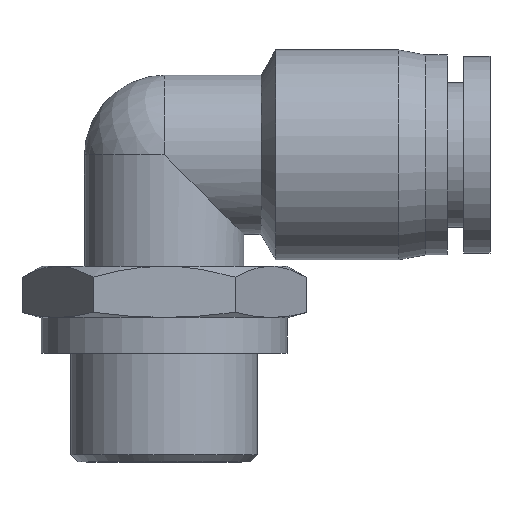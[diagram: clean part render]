
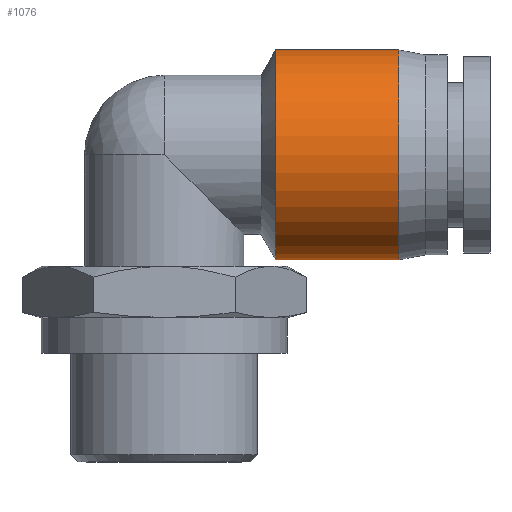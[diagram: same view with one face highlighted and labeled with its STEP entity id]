
A CAD part, top view. The second image highlights one B-rep face of the part: STEP entity #1076.
In plain terms, the highlighted cylindrical face has radius 7.25 mm (diameter 14.5 mm), a full revolution.
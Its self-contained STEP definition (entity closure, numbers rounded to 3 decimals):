
#1042=CARTESIAN_POINT('',(7.7,7.25,0.0));
#1043=VERTEX_POINT('',#1042);
#1044=CARTESIAN_POINT('',(7.7,0.0,0.0));
#1045=DIRECTION('',(1.0,0.0,0.0));
#1046=DIRECTION('',(0.0,1.0,0.0));
#1047=AXIS2_PLACEMENT_3D('',#1044,#1045,#1046);
#1048=CIRCLE('',#1047,7.25);
#1049=EDGE_CURVE('',#1043,#1043,#1048,.T.);
#1057=CARTESIAN_POINT('',(11.95,0.0,0.0));
#1058=DIRECTION('',(1.0,0.0,0.0));
#1059=DIRECTION('',(0.0,1.0,0.0));
#1060=AXIS2_PLACEMENT_3D('',#1057,#1058,#1059);
#1061=CYLINDRICAL_SURFACE('',#1060,7.25);
#1062=CARTESIAN_POINT('',(16.2,7.25,0.0));
#1063=VERTEX_POINT('',#1062);
#1064=CARTESIAN_POINT('',(16.2,0.0,0.0));
#1065=DIRECTION('',(1.0,0.0,0.0));
#1066=DIRECTION('',(0.0,1.0,0.0));
#1067=AXIS2_PLACEMENT_3D('',#1064,#1065,#1066);
#1068=CIRCLE('',#1067,7.25);
#1069=EDGE_CURVE('',#1063,#1063,#1068,.T.);
#1070=ORIENTED_EDGE('',*,*,#1069,.F.);
#1071=EDGE_LOOP('',(#1070));
#1072=FACE_OUTER_BOUND('',#1071,.T.);
#1073=ORIENTED_EDGE('',*,*,#1049,.T.);
#1074=EDGE_LOOP('',(#1073));
#1075=FACE_BOUND('',#1074,.T.);
#1076=ADVANCED_FACE('',(#1072,#1075),#1061,.T.);
